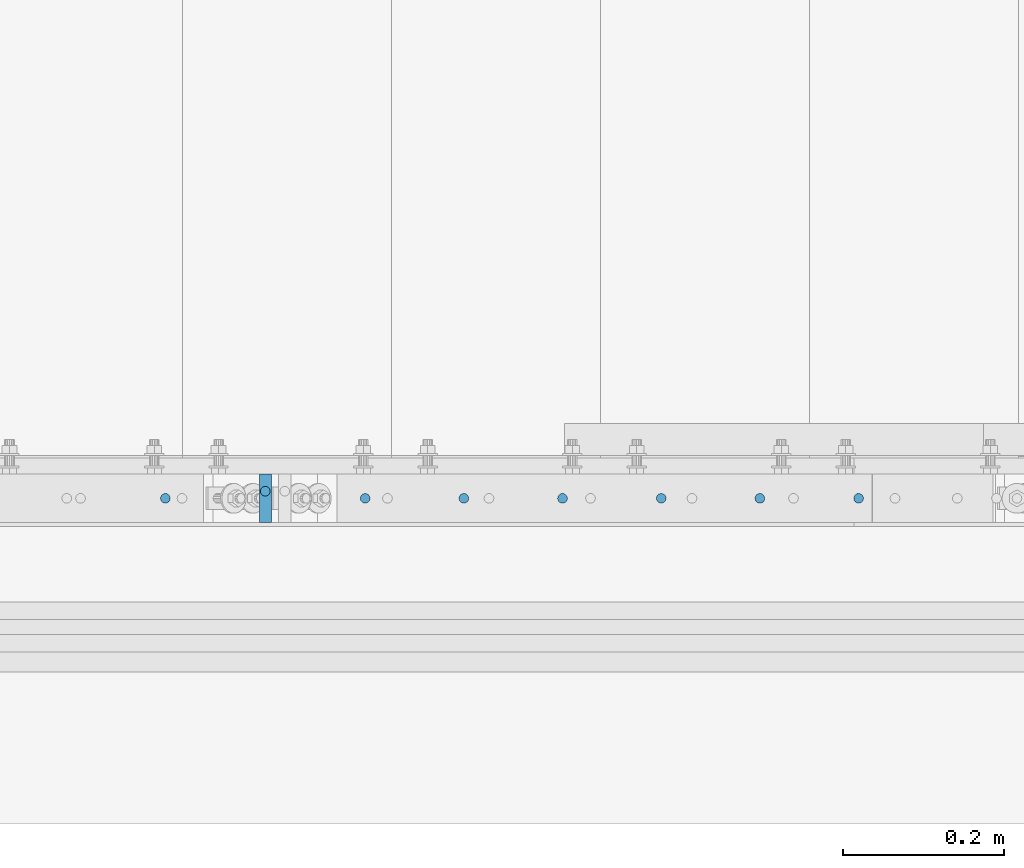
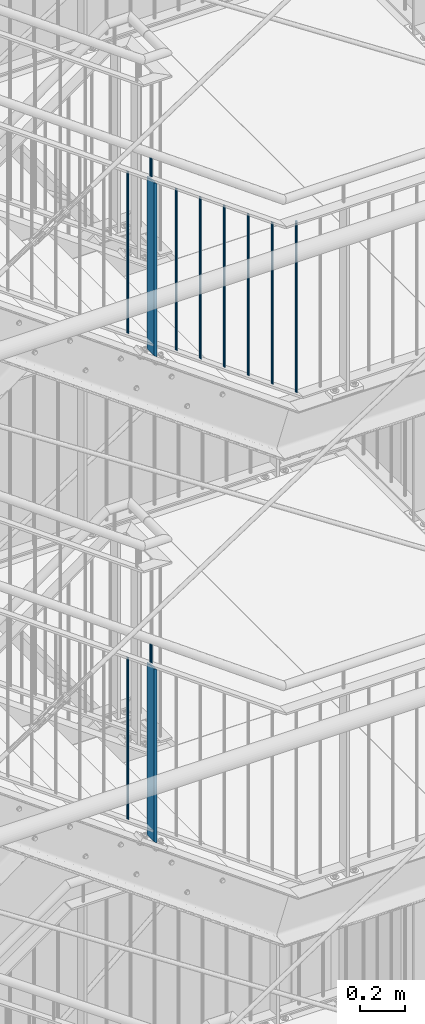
# One storey, part 41 of 831: 12 columns.
"""IFC2X3 building model written with IfcOpenShell, lengths in millimetres."""

from ifc_helpers import new_model, entity, si_unit, converted_unit, frame, origin, origin_with_axes, origin_2d, place, context, project, spatial, rectangle, circle, extrude, clip, halfspace, material, element, save


model = new_model("IFC2X3")

# Units and contexts
model_context = context("Model", 3, precision=1e-09, world=origin_with_axes())
ifc_project = project(units=[si_unit("LENGTHUNIT", "METRE", prefix="MILLI"), si_unit("AREAUNIT", "SQUARE_METRE"), si_unit("VOLUMEUNIT", "CUBIC_METRE"), converted_unit("PLANEANGLEUNIT", "DEGREE", entity("IfcPlaneAngleMeasure", 0.01745329), si_unit("PLANEANGLEUNIT", "RADIAN"), dimensions=[0, 0, 0, 0, 0, 0, 0])], contexts=[model_context])

# Site, building, storey
site_placement = place(None, origin_with_axes())
site = spatial("IfcSite", under=ifc_project, at=site_placement, Name="Site", CompositionType="ELEMENT")
building_placement = place(site_placement, origin_with_axes())
building = spatial("IfcBuilding", under=site, at=building_placement, Name="Struktur 1", CompositionType="ELEMENT")
storey_placement = place(building_placement, origin_with_axes())
storey = spatial("IfcBuildingStorey", under=building, at=storey_placement, Name="Default Storey", CompositionType="ELEMENT", Elevation=0.0)

# Columns
ifc_material = material(Name="S235JR")
column_1_placement = place(None, frame((6255.541974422, 4526.736971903, 10227.277833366), z_axis=(0.0, 0.0, 1.0), x_axis=(-1.0, 0.0, 0.0)))
element("IfcColumn", 1, at=column_1_placement, inside=storey, material=ifc_material, Name="Railing_Picket_Stair#69", ObjectType="Railing_Picket_Stair#69", context=model_context, shape_type="Clipping", body=[
    clip(clip(extrude(circle(Radius=6.0, at=origin_2d()), origin(), (0.0, 0.0, -1.0), 896.05799959), halfspace(frame((-743.344090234, 4526.736971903, -547.967318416), z_axis=(0.585945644, 0.0, -0.810350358), x_axis=(0.0, 1.0, 0.0)), True)), halfspace(frame((-327.821699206, 4526.736971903, -1122.625944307), z_axis=(-0.585945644, 0.0, 0.810350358), x_axis=(0.0, -1.0, 0.0)), True)),
])
column_2_placement = place(None, frame((6379.791974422, 4535.536971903, 10249.775866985), z_axis=(0.0, 0.0, 1.0), x_axis=(0.0, 1.0, 0.0)))
element("IfcColumn", 2, at=column_2_placement, inside=storey, material=ifc_material, Name="Bar#10", ObjectType="Bar#10", context=model_context, shape_type="Clipping", body=[
    clip(clip(extrude(circle(Radius=6.0, at=origin_2d()), origin(), (0.0, 0.0, -1.0), 120.942253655), halfspace(frame((-4535.536971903, -672.435672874, -496.695078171), z_axis=(0.0, 0.585945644, -0.810350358), x_axis=(-1.0, 0.0, 0.0)), True)), halfspace(frame((-4535.536971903, -624.954718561, -562.360227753), z_axis=(0.0, -0.585945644, 0.810350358), x_axis=(1.0, 0.0, 0.0)), True)),
])
column_3_placement = place(None, frame((6379.791974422, 4526.736971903, 10165.124796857), z_axis=(0.0, 0.0, 1.0), x_axis=(-1.0, 0.0, 0.0)))
element("IfcColumn", 3, at=column_3_placement, inside=storey, material=ifc_material, Name="Railing_Post_Stair#10", ObjectType="Railing_Post_Stair#10", context=model_context, shape_type="Clipping", body=[
    clip(clip(extrude(rectangle(XDim=15.0, YDim=60.0, at=origin_2d()), origin(), (0.0, 0.0, -1.0), 1013.13824851), halfspace(frame((-619.094090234, 4526.736971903, -485.814281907), z_axis=(0.585945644, 0.0, -0.810350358), x_axis=(0.0, 1.0, 0.0)), True)), halfspace(frame((-174.274417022, 4526.736971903, -1100.990425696), z_axis=(-0.585945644, 0.0, 0.810350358), x_axis=(0.0, -1.0, 0.0)), True)),
])
column_4_placement = place(None, frame((6379.791974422, 4526.736971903, 12793.695182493), z_axis=(0.0, 0.0, 1.0), x_axis=(-1.0, 0.0, 0.0)))
element("IfcColumn", 4, at=column_4_placement, inside=storey, material=ifc_material, Name="Railing_Post_Stair#10", ObjectType="Railing_Post_Stair#10", context=model_context, shape_type="Clipping", body=[
    clip(clip(extrude(rectangle(XDim=15.0, YDim=60.0, at=origin_2d()), origin(), (0.0, 0.0, -1.0), 1013.129684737), halfspace(frame((-1858.122822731, 4526.736971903, -1379.150124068), z_axis=(0.585213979, 0.0, -0.810878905), x_axis=(0.0, 1.0, 0.0)), True)), halfspace(frame((-1413.54927835, 4526.736971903, -1995.156101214), z_axis=(-0.585213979, 0.0, 0.810878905), x_axis=(0.0, -1.0, 0.0)), True)),
])
column_5_placement = place(None, frame((7117.792093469, 4526.736971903, 12274.3000003), z_axis=(0.0, 0.0, 1.0), x_axis=(-1.0, 0.0, 0.0)))
element("IfcColumn", 5, at=column_5_placement, inside=storey, material=ifc_material, Name="Railing_Picket_Stair#63", ObjectType="Railing_Picket_Stair#63", context=model_context, shape_type="Clipping", body=[
    clip(extrude(circle(Radius=6.0, at=origin_2d()), origin(), (0.0, 0.0, -1.0), 937.018910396), halfspace(frame((-704.809858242, 4526.736971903, -1435.216973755), z_axis=(-0.585213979, 0.0, 0.810878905), x_axis=(0.0, -1.0, 0.0)), True)),
])
column_6_placement = place(None, frame((6995.04206966, 4526.736971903, 12321.995937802), z_axis=(0.0, 0.0, 1.0), x_axis=(-1.0, 0.0, 0.0)))
element("IfcColumn", 6, at=column_6_placement, inside=storey, material=ifc_material, Name="Railing_Picket_Stair#64", ObjectType="Railing_Picket_Stair#64", context=model_context, shape_type="Clipping", body=[
    clip(clip(extrude(circle(Radius=6.0, at=origin_2d()), origin(), (0.0, 0.0, -1.0), 896.125751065), halfspace(frame((-1242.872727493, 4526.736971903, -907.450879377), z_axis=(0.585213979, 0.0, -0.810878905), x_axis=(0.0, 1.0, 0.0)), True)), halfspace(frame((-827.559882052, 4526.736971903, -1482.912911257), z_axis=(-0.585213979, 0.0, 0.810878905), x_axis=(0.0, -1.0, 0.0)), True)),
])
column_7_placement = place(None, frame((6872.29204585, 4526.736971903, 12410.585034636), z_axis=(0.0, 0.0, 1.0), x_axis=(-1.0, 0.0, 0.0)))
element("IfcColumn", 7, at=column_7_placement, inside=storey, material=ifc_material, Name="Railing_Picket_Stair#65", ObjectType="Railing_Picket_Stair#65", context=model_context, shape_type="Clipping", body=[
    clip(clip(extrude(circle(Radius=6.0, at=origin_2d()), origin(), (0.0, 0.0, -1.0), 896.125751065), halfspace(frame((-1365.622751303, 4526.736971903, -996.039976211), z_axis=(0.585213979, 0.0, -0.810878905), x_axis=(0.0, 1.0, 0.0)), True)), halfspace(frame((-950.309905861, 4526.736971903, -1571.50200809), z_axis=(-0.585213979, 0.0, 0.810878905), x_axis=(0.0, -1.0, 0.0)), True)),
])
column_8_placement = place(None, frame((6749.542022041, 4526.736971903, 12499.174131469), z_axis=(0.0, 0.0, 1.0), x_axis=(-1.0, 0.0, 0.0)))
element("IfcColumn", 8, at=column_8_placement, inside=storey, material=ifc_material, Name="Railing_Picket_Stair#66", ObjectType="Railing_Picket_Stair#66", context=model_context, shape_type="Clipping", body=[
    clip(clip(extrude(circle(Radius=6.0, at=origin_2d()), origin(), (0.0, 0.0, -1.0), 896.125751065), halfspace(frame((-1488.372775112, 4526.736971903, -1084.629073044), z_axis=(0.585213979, 0.0, -0.810878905), x_axis=(0.0, 1.0, 0.0)), True)), halfspace(frame((-1073.059929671, 4526.736971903, -1660.091104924), z_axis=(-0.585213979, 0.0, 0.810878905), x_axis=(0.0, -1.0, 0.0)), True)),
])
column_9_placement = place(None, frame((6626.791998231, 4526.736971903, 12587.763228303), z_axis=(0.0, 0.0, 1.0), x_axis=(-1.0, 0.0, 0.0)))
element("IfcColumn", 9, at=column_9_placement, inside=storey, material=ifc_material, Name="Railing_Picket_Stair#67", ObjectType="Railing_Picket_Stair#67", context=model_context, shape_type="Clipping", body=[
    clip(clip(extrude(circle(Radius=6.0, at=origin_2d()), origin(), (0.0, 0.0, -1.0), 896.125751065), halfspace(frame((-1611.122798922, 4526.736971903, -1173.218169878), z_axis=(0.585213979, 0.0, -0.810878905), x_axis=(0.0, 1.0, 0.0)), True)), halfspace(frame((-1195.80995348, 4526.736971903, -1748.680201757), z_axis=(-0.585213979, 0.0, 0.810878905), x_axis=(0.0, -1.0, 0.0)), True)),
])
column_10_placement = place(None, frame((6504.041974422, 4526.736971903, 12676.352325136), z_axis=(0.0, 0.0, 1.0), x_axis=(-1.0, 0.0, 0.0)))
element("IfcColumn", 10, at=column_10_placement, inside=storey, material=ifc_material, Name="Railing_Picket_Stair#68", ObjectType="Railing_Picket_Stair#68", context=model_context, shape_type="Clipping", body=[
    clip(clip(extrude(circle(Radius=6.0, at=origin_2d()), origin(), (0.0, 0.0, -1.0), 896.125751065), halfspace(frame((-1733.872822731, 4526.736971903, -1261.807266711), z_axis=(0.585213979, 0.0, -0.810878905), x_axis=(0.0, 1.0, 0.0)), True)), halfspace(frame((-1318.55997729, 4526.736971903, -1837.269298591), z_axis=(-0.585213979, 0.0, 0.810878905), x_axis=(0.0, -1.0, 0.0)), True)),
])
column_11_placement = place(None, frame((6255.541974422, 4526.736971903, 12855.695594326), z_axis=(0.0, 0.0, 1.0), x_axis=(-1.0, 0.0, 0.0)))
element("IfcColumn", 11, at=column_11_placement, inside=storey, material=ifc_material, Name="Railing_Picket_Stair#69", ObjectType="Railing_Picket_Stair#69", context=model_context, shape_type="Clipping", body=[
    clip(clip(extrude(circle(Radius=6.0, at=origin_2d()), origin(), (0.0, 0.0, -1.0), 896.125751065), halfspace(frame((-1982.372822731, 4526.736971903, -1441.150535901), z_axis=(0.585213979, 0.0, -0.810878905), x_axis=(0.0, 1.0, 0.0)), True)), halfspace(frame((-1567.059977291, 4526.736971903, -2016.612567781), z_axis=(-0.585213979, 0.0, 0.810878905), x_axis=(0.0, -1.0, 0.0)), True)),
])
column_12_placement = place(None, frame((6379.791974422, 4535.536971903, 12878.356257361), z_axis=(0.0, 0.0, 1.0), x_axis=(0.0, 1.0, 0.0)))
element("IfcColumn", 12, at=column_12_placement, inside=storey, material=ifc_material, Name="Bar#10", ObjectType="Bar#10", context=model_context, shape_type="Clipping", body=[
    clip(clip(extrude(circle(Radius=6.0, at=origin_2d()), origin(), (0.0, 0.0, -1.0), 120.928603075), halfspace(frame((-4535.536971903, -1911.428729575, -1389.94995), z_axis=(0.0, 0.585213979, -0.810878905), x_axis=(-1.0, 0.0, 0.0)), True)), halfspace(frame((-4535.536971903, -1863.976132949, -1455.700788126), z_axis=(0.0, -0.585213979, 0.810878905), x_axis=(1.0, 0.0, 0.0)), True)),
])

save(model, "model.ifc")
